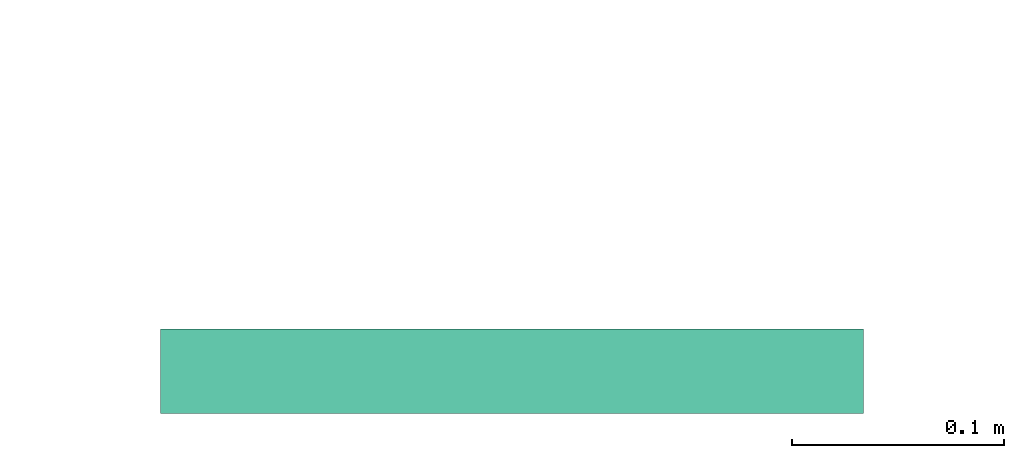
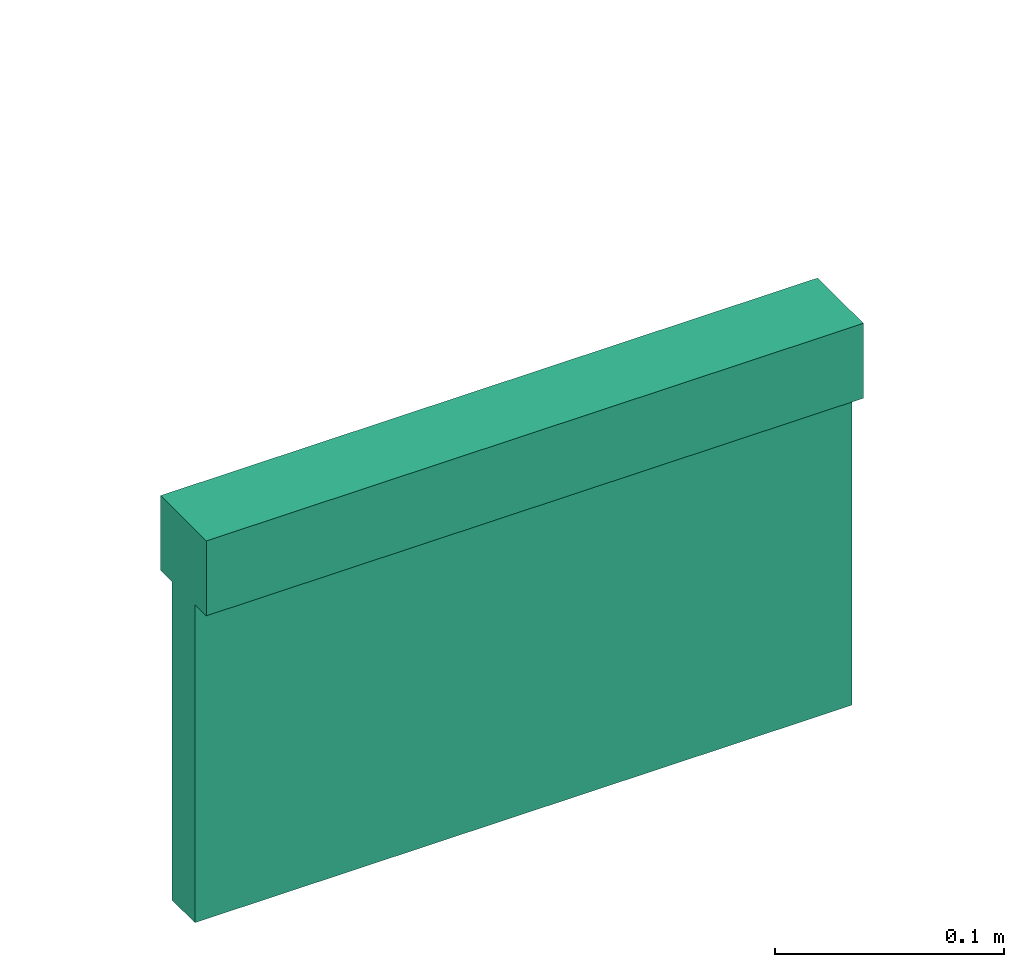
# One storey, part 1 of 2: 1 flow terminal.
"""IFC2X3 building model written with IfcOpenShell, lengths in millimetres."""

from ifc_helpers import new_model, entity, si_unit, converted_unit, derived_unit, direction, frame, frame_2d, origin, origin_2d_with_axis, place, context, subcontext, project, spatial, polyline, circle_curve, parameter, trimmed, segment, composite_curve, circle, outline, extrude, source, transform, mapped, material, material_list, type_object, element, save


model = new_model("IFC2X3")

# Units and contexts
model_context = context("Model", 3, precision=0.01, world=frame((0.0, 4.29681676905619e-09, 0.0)), true_north=direction((4.01073788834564e-13, 1.0)))
plan_context = context("Plan", 3, precision=0.01, world=frame((0.0, 4.29681676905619e-09, 0.0)), true_north=direction((4.01073788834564e-13, 1.0)))
body_context = subcontext(model_context, "Body", "Model", "MODEL_VIEW")
ifc_project = project(units=[converted_unit("PLANEANGLEUNIT", "DEGREE", entity("IfcPositiveLengthMeasure", 0.0174532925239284), si_unit("PLANEANGLEUNIT", "RADIAN"), dimensions=[0, 0, 0, 0, 0, 0, 0]), si_unit("AREAUNIT", "SQUARE_METRE"), si_unit("LENGTHUNIT", "METRE", prefix="MILLI"), si_unit("MASSUNIT", "GRAM", prefix="KILO"), si_unit("POWERUNIT", "WATT"), si_unit("PRESSUREUNIT", "PASCAL", prefix="KILO"), si_unit("FORCEUNIT", "NEWTON", prefix="KILO"), si_unit("ELECTRICVOLTAGEUNIT", "VOLT"), si_unit("ELECTRICCURRENTUNIT", "AMPERE"), si_unit("THERMODYNAMICTEMPERATUREUNIT", "DEGREE_CELSIUS"), si_unit("TIMEUNIT", "SECOND"), si_unit("VOLUMEUNIT", "CUBIC_METRE"), derived_unit("LINEARVELOCITYUNIT", [(si_unit("LENGTHUNIT", "METRE"), 1), (si_unit("TIMEUNIT", "SECOND"), -1)]), derived_unit("VOLUMETRICFLOWRATEUNIT", [(si_unit("VOLUMEUNIT", "CUBIC_METRE"), 1), (si_unit("TIMEUNIT", "SECOND"), -1)]), derived_unit("THERMALTRANSMITTANCEUNIT", [(si_unit("POWERUNIT", "WATT"), 1), (si_unit("THERMODYNAMICTEMPERATUREUNIT", "KELVIN"), -1), (si_unit("AREAUNIT", "SQUARE_METRE"), -1)]), derived_unit("SOUNDPRESSUREUNIT", [(si_unit("PRESSUREUNIT", "PASCAL"), 1)])], contexts=[model_context, plan_context])

# Site, building, storey
site_placement = place(None, frame((0.0, -4.29681676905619e-09, 0.0), z_axis=(0.0, 0.0, 1.0), x_axis=(1.0, 0.0, 0.0)))
site = spatial("IfcSite", under=ifc_project, at=site_placement, Name="Default", CompositionType="ELEMENT")
building_placement = place(site_placement, frame((0.0, 4.29681676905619e-09, 0.0), z_axis=(0.0, 0.0, 1.0), x_axis=(1.0, 0.0, 0.0)))
building = spatial("IfcBuilding", under=site, at=building_placement, CompositionType="ELEMENT")
storey_placement = place(building_placement, frame((0.0, 0.0, 204000.0), z_axis=(0.0, 0.0, 1.0), x_axis=(1.0, 0.0, 0.0)))
storey = spatial("IfcBuildingStorey", under=building, at=storey_placement, Name="Nivå D", CompositionType="ELEMENT", Elevation=204000.0)

# Flow terminal
ifc_material_1 = material(Name="<Unnamed>")
ifc_material_2 = material(Name="Light Source Hvit")
ifc_material_3 = material(Name="Light Source Grønn")
ifc_material_list = material_list([ifc_material_1, ifc_material_2, ifc_material_3])
light_fixture_type = type_object("IfcLightFixtureType", Name="IB7330 Markeringslys ensidig 30 meter leseavstand innfelt:IB7330 Zumtobel Puresign/Comsign 150 ED NDA", PredefinedType="NOTDEFINED", material=ifc_material_list)
shared_shape = source(origin(), body_context, "Body", "SweptSolid", [
    extrude(outline(polyline([(-20.0, -32.4999999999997), (-20.0, -72.5000000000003), (20.0, -72.5000000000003), (20.0, -32.4999999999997), (10.0, -32.4999999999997), (10.0, 137.5), (-10.0, 137.5), (-10.0, -32.4999999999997), (-20.0, -32.4999999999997)])), frame((-166.0, 22.0, -72.5000000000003), z_axis=(-1.0, 0.0, 0.0), x_axis=(0.0, 1.0, 0.0)), (0.0, 0.0, -1.0), 332.0),
    extrude(outline(polyline([(-9.94071838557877, -40.8929275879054), (20.65829993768, -40.8929275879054), (61.5512275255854, 0.0), (20.6582999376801, 40.8929275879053), (-9.94071838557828, 40.8929275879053), (17.4135315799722, 13.5386776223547), (-58.9067268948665, 13.5386776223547), (-58.9067268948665, -13.5386776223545), (17.4135315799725, -13.5386776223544), (-9.94071838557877, -40.8929275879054)])), frame((-68.0, 32.0, -128.40431218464), z_axis=(0.0, 1.0, 0.0), x_axis=(0.0, 0.0, -1.0)), (0.0, 0.0, 1.0), 2.0),
    extrude(outline(composite_curve([segment(trimmed(circle_curve(origin_2d_with_axis(), 70.0), [parameter(180.0)], [parameter(360.0)], True, "PARAMETER"), True, "CONTINUOUS"), segment(trimmed(circle_curve(origin_2d_with_axis(), 70.0), [parameter(0.0)], [parameter(180.0)], True, "PARAMETER"), True, "CONTINUOUS")], self_intersect=False), holes=[polyline([(60.2289772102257, 0.0), (19.3360496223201, -40.8929275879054), (-11.2629687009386, -40.8929275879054), (16.0912812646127, -13.5386776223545), (-60.2289772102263, -13.5386776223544), (-60.2289772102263, 13.5386776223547), (16.0912812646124, 13.5386776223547), (-11.262968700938, 40.8929275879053), (19.3360496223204, 40.8929275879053), (60.2289772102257, 0.0)])]), frame((-68.0, 32.0, -129.7265625), z_axis=(0.0, 1.0, 0.0), x_axis=(0.0, 0.0, -1.0)), (0.0, 0.0, 1.0), 2.0),
    extrude(outline(polyline([(-80.0, -155.0), (80.0, -155.0), (80.0, 155.0), (-80.0, 155.0), (-80.0, -155.0)]), holes=[polyline([(-46.0, 68.0), (-46.0, 110.0), (-34.0, 110.0), (-34.0, 80.0), (-2.58359213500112, 80.0), (26.0, 65.7082039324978), (26.0, 78.6028577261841), (8.91302546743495, 88.8550424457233), (15.0869745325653, 99.1449575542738), (38.0, 85.3971422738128), (38.0, 46.0), (36.9923017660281, 42.6717988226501), (27.2111025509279, 28.0), (14.0, 28.0), (14.0, 10.0), (2.0, 10.0), (2.0, 40.0), (22.2792226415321, 40.0), (-6.84828493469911, 58.204692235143), (-54.5419187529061, 29.5474658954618), (-60.8224348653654, 40.0), (-14.2226093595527, 68.0), (-46.0, 68.0)]), composite_curve([segment(trimmed(circle_curve(frame_2d((52.0, 42.0), x_axis=(0.0, -1.0)), 14.0), [parameter(3.05333249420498e-13)], [parameter(180.0)], True, "PARAMETER"), False, "CONTINUOUS"), segment(trimmed(circle_curve(frame_2d((52.0, 42.0), x_axis=(0.0, -1.0)), 14.0), [parameter(180.0)], [parameter(5.08888749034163e-14)], True, "PARAMETER"), False, "CONTINUOUS")], self_intersect=False), composite_curve([segment(trimmed(circle_curve(frame_2d((0.0, -68.0), x_axis=(0.0, -1.0)), 70.0), [parameter(3.05333249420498e-13)], [parameter(180.0)], True, "PARAMETER"), False, "CONTINUOUS"), segment(trimmed(circle_curve(frame_2d((0.0, -68.0), x_axis=(0.0, -1.0)), 70.0), [parameter(180.0)], [parameter(0.0)], True, "PARAMETER"), False, "CONTINUOUS")], self_intersect=False)]), frame((0.0, 32.0, -129.726562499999), z_axis=(0.0, 1.0, 0.0), x_axis=(0.0, 0.0, 1.0)), (0.0, 0.0, 1.0), 2.0),
    extrude(circle(Radius=14.0, at=frame_2d((5.44757758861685e-29, -1.69197988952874e-14), x_axis=(1.0, 0.0))), frame((42.0, 32.0, -77.7265624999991), z_axis=(0.0, 1.0, 0.0), x_axis=(-1.0, 0.0, 0.0)), (0.0, 0.0, 1.0), 2.0),
    extrude(outline(polyline([(32.7028994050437, -50.6303563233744), (44.7028994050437, -50.6303563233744), (44.7028994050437, -8.63035632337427), (12.9255087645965, -8.63035632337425), (59.5253342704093, 19.3696436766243), (53.2448181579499, 29.8221777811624), (5.55118433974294, 1.16495144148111), (-23.5763232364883, 19.3696436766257), (-3.29710059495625, 19.3696436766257), (-3.29710059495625, 49.3696436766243), (-15.2971005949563, 49.3696436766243), (-15.2971005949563, 31.3696436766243), (-28.508203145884, 31.3696436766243), (-38.2894023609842, 16.6978448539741), (-39.2971005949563, 13.3696436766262), (-39.2971005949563, -26.0274985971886), (-16.3840751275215, -39.7753138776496), (-10.2101260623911, -29.4853987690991), (-27.2971005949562, -19.2332140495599), (-27.2971005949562, -6.33856025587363), (1.28649154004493, -20.6303563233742), (32.7028994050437, -20.6303563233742), (32.7028994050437, -50.6303563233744)])), frame((59.369643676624, 32.0, -131.023663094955), z_axis=(0.0, 1.0, 0.0), x_axis=(0.0, 0.0, -1.0)), (0.0, 0.0, 1.0), 2.0),
])
flow_terminal_placement = place(storey_placement, frame((599695.492151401, 398012.096615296, 2370.0), z_axis=(0.0, 0.0, 1.0), x_axis=(1.0, 0.0, 0.0)))
element("IfcFlowTerminal", 1, at=flow_terminal_placement, inside=storey, type_object=light_fixture_type, material=ifc_material_list, Name="IB7330 Markeringslys ensidig 30 meter leseavstand innfelt:IB7330 Zumtobel Puresign/Comsign 150 ED NDA", ObjectType="IB7330 Markeringslys ensidig 30 meter leseavstand innfelt:IB7330 Zumtobel Puresign/Comsign 150 ED NDA", context=body_context, shape_type="MappedRepresentation", body=[
    mapped(shared_shape, transform((0.0, 0.0, 0.0), scale=1.0)),
])

save(model, "model.ifc")
